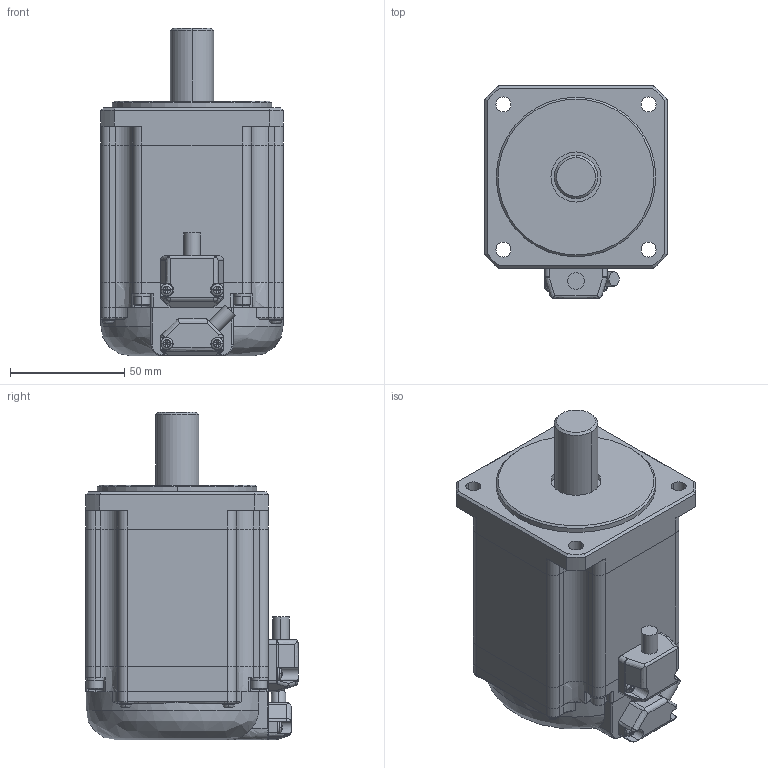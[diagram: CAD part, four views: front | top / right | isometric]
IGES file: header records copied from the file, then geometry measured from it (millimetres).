
Start section: Elysium IGES Interface
Global section: file name: 79H\\nas63\design\04MC研\saka\3DCAD\TBL-i2カタログまとめ\IGSデータ\TS4614_BK無.igs; native system: Creo Elements/Direct Modeling 17.0F  20-Aug-2012; preprocessor: Creo Element/Direct IGES_3D V2.2; author: Unknown; organization: Unknown; date: 20161222.163650; units: millimetre
Bounding box: 80 x 93 x 143.7 mm (x, y, z)
Volume: 630016.8 mm3; surface area: 48933.1 mm2
Topology: 1 solids, 1 shells, 639 faces, 1497 edges, 860 vertices
Faces by surface type: bspline 639
